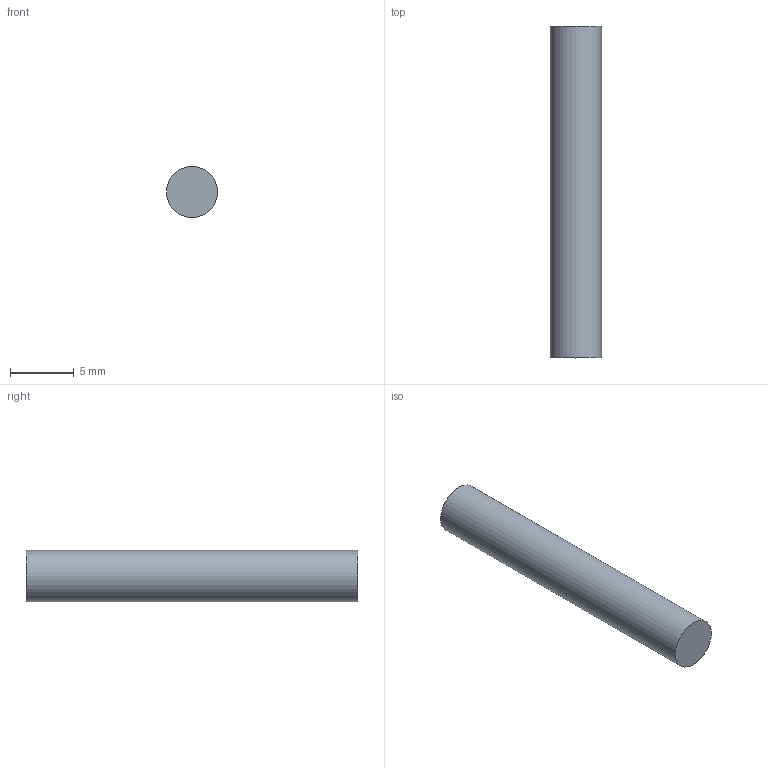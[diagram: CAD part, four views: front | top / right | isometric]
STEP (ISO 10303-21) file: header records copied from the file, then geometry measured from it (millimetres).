
FILE_DESCRIPTION(/* description */ (''),/* implementation_level */ '2;1');
FILE_NAME(/* name */ 'C:\Users\user\Documents\Inventor\Home Ventilator CPAP\Shaft.stp',/* time_stamp */ '2020-03-29T22:41:30+02:00',/* author */ ('user'),/* organization */ (''),/* preprocessor_version */ 'ST-DEVELOPER v16.5',/* originating_system */ 'Autodesk Inventor 2017',/* authorisation */ '');
FILE_SCHEMA (('AUTOMOTIVE_DESIGN { 1 0 10303 214 3 1 1 }'));
Length unit declared in the file: millimetre
Products named in the file (1): Shaft
Bounding box: 4 x 26 x 4 mm (x, y, z)
Volume: 326.7 mm3; surface area: 351.9 mm2
Topology: 1 solids, 1 shells, 3 faces, 3 edges, 2 vertices
Faces by surface type: plane 2, cylinder 1
Full cylindrical faces by diameter (mm): 4 x1
Entity records: 84 total; most frequent: DIRECTION 12, CARTESIAN_POINT 8, AXIS2_PLACEMENT_3D 6, EDGE_LOOP 4, ORIENTED_EDGE 4, FACE_OUTER_BOUND 3, ADVANCED_FACE 3, CIRCLE 2
